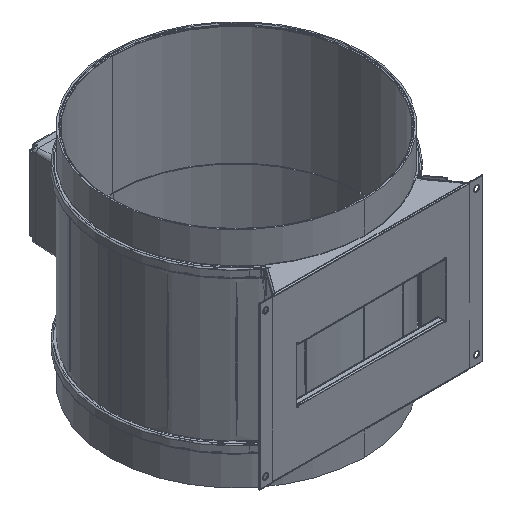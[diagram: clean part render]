
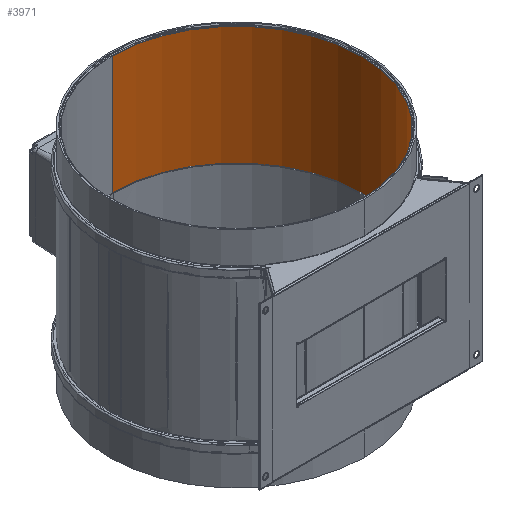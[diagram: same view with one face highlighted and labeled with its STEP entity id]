
A CAD part, isometric view. The second image highlights one B-rep face of the part: STEP entity #3971.
In plain terms, the highlighted cylindrical face has radius 194.655 mm (diameter 389.31 mm), a partial arc.
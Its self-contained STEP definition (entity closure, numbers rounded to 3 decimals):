
#422 = EDGE_CURVE ( 'NONE', #5870, #5826, #11383, .T. ) ;
#516 = EDGE_CURVE ( 'NONE', #5926, #5826, #11522, .T. ) ;
#644 = EDGE_CURVE ( 'NONE', #6013, #5870, #11694, .T. ) ;
#651 = EDGE_CURVE ( 'NONE', #5882, #6013, #11703, .T. ) ;
#1012 = CARTESIAN_POINT ( 'NONE',  ( 0., 194.655, -111.362 ) ) ;
#1019 = CARTESIAN_POINT ( 'NONE',  ( 194.655, 0., -111.362 ) ) ;
#1028 = CARTESIAN_POINT ( 'NONE',  ( 0., -194.655, -296.452 ) ) ;
#1040 = CARTESIAN_POINT ( 'NONE',  ( 0., 194.655, -296.452 ) ) ;
#1057 = CARTESIAN_POINT ( 'NONE',  ( 0., -194.655, -111.362 ) ) ;
#3971 = ADVANCED_FACE ( 'NONE', ( #15623 ), #15628, .F. ) ;
#4315 = EDGE_CURVE ( 'NONE', #5882, #5926, #16026, .T. ) ;
#5826 = VERTEX_POINT ( 'NONE', #1012 ) ;
#5870 = VERTEX_POINT ( 'NONE', #1019 ) ;
#5882 = VERTEX_POINT ( 'NONE', #1028 ) ;
#5926 = VERTEX_POINT ( 'NONE', #1040 ) ;
#6013 = VERTEX_POINT ( 'NONE', #1057 ) ;
#8478 = ORIENTED_EDGE ( 'NONE', *, *, #422, .T. ) ;
#8480 = ORIENTED_EDGE ( 'NONE', *, *, #651, .T. ) ;
#8481 = ORIENTED_EDGE ( 'NONE', *, *, #644, .T. ) ;
#8482 = ORIENTED_EDGE ( 'NONE', *, *, #4315, .F. ) ;
#8485 = ORIENTED_EDGE ( 'NONE', *, *, #516, .F. ) ;
#9838 = EDGE_LOOP ( 'NONE', ( #8485, #8482, #8480, #8481, #8478 ) ) ;
#10294 = AXIS2_PLACEMENT_3D ( 'NONE', #28142, #28107, #28123 ) ;
#10415 = AXIS2_PLACEMENT_3D ( 'NONE', #14249, #14250, #14251 ) ;
#11383 = CIRCLE ( 'NONE', #10294, 194.655 ) ;
#11522 = LINE ( 'NONE', #13868, #11524 ) ;
#11524 = VECTOR ( 'NONE', #13872, 1000. ) ;
#11694 = CIRCLE ( 'NONE', #10415, 194.655 ) ;
#11703 = LINE ( 'NONE', #14266, #11706 ) ;
#11706 = VECTOR ( 'NONE', #14267, 1000. ) ;
#13868 = CARTESIAN_POINT ( 'NONE',  ( 0., 194.655, 0. ) ) ;
#13872 = DIRECTION ( 'NONE',  ( 0., 0., 1. ) ) ;
#14249 = CARTESIAN_POINT ( 'NONE',  ( 0., 0., -111.362 ) ) ;
#14250 = DIRECTION ( 'NONE',  ( 0., 0., 1. ) ) ;
#14251 = DIRECTION ( 'NONE',  ( 1., 0., 0. ) ) ;
#14266 = CARTESIAN_POINT ( 'NONE',  ( 0., -194.655, 0. ) ) ;
#14267 = DIRECTION ( 'NONE',  ( 0., 0., 1. ) ) ;
#15623 = FACE_OUTER_BOUND ( 'NONE', #9838, .T. ) ;
#15628 = CYLINDRICAL_SURFACE ( 'NONE', #21514, 194.655 ) ;
#16026 = CIRCLE ( 'NONE', #21641, 194.655 ) ;
#21113 = DIRECTION ( 'NONE',  ( 0., -1., 0. ) ) ;
#21115 = DIRECTION ( 'NONE',  ( 0., 0., 1. ) ) ;
#21117 = CARTESIAN_POINT ( 'NONE',  ( 0., 0., 0. ) ) ;
#21514 = AXIS2_PLACEMENT_3D ( 'NONE', #21117, #21115, #21113 ) ;
#21641 = AXIS2_PLACEMENT_3D ( 'NONE', #22568, #22569, #22570 ) ;
#22568 = CARTESIAN_POINT ( 'NONE',  ( 0., 0., -296.452 ) ) ;
#22569 = DIRECTION ( 'NONE',  ( 0., 0., 1. ) ) ;
#22570 = DIRECTION ( 'NONE',  ( 0., -1., 0. ) ) ;
#28107 = DIRECTION ( 'NONE',  ( 0., 0., 1. ) ) ;
#28123 = DIRECTION ( 'NONE',  ( 1., 0., 0. ) ) ;
#28142 = CARTESIAN_POINT ( 'NONE',  ( 0., 0., -111.362 ) ) ;
